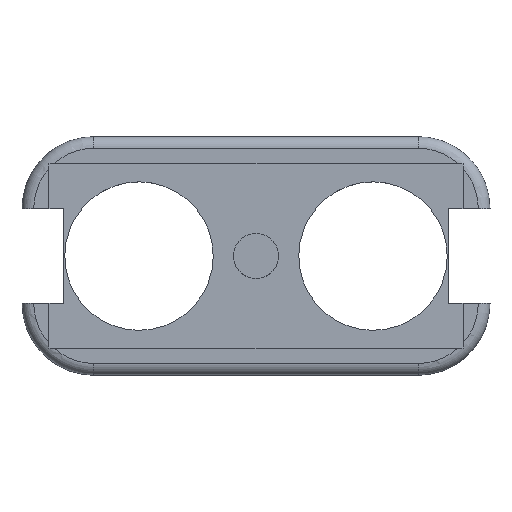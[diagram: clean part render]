
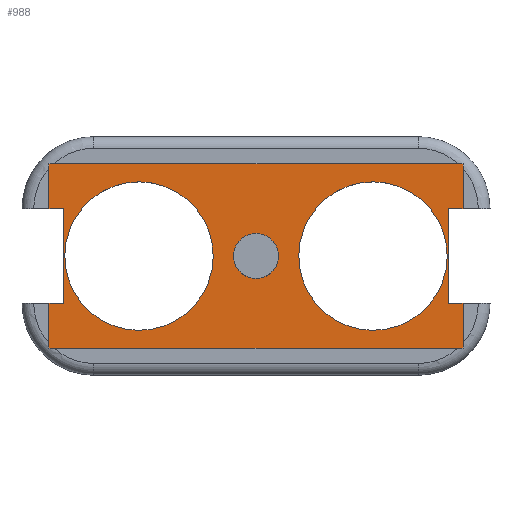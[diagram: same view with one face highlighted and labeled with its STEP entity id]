
A CAD part, top view. The second image highlights one B-rep face of the part: STEP entity #988.
In plain terms, the highlighted planar face has unit normal (0, 0, 1).
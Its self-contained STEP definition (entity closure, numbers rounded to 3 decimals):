
#81=CIRCLE('',#1087,2.5);
#82=CIRCLE('',#1091,8.25);
#83=CIRCLE('',#1092,8.25);
#109=PLANE('',#1090);
#153=VERTEX_POINT('',#1444);
#154=VERTEX_POINT('',#1446);
#157=VERTEX_POINT('',#1453);
#158=VERTEX_POINT('',#1455);
#171=VERTEX_POINT('',#1638);
#172=VERTEX_POINT('',#1640);
#174=VERTEX_POINT('',#1646);
#190=VERTEX_POINT('',#1835);
#191=VERTEX_POINT('',#1837);
#199=VERTEX_POINT('',#1867);
#207=VERTEX_POINT('',#1893);
#213=VERTEX_POINT('',#1918);
#214=VERTEX_POINT('',#1923);
#215=VERTEX_POINT('',#1929);
#216=VERTEX_POINT('',#1931);
#247=VECTOR('',#1179,1.);
#251=VECTOR('',#1184,1.);
#256=VECTOR('',#1214,1.);
#260=VECTOR('',#1219,1.);
#266=VECTOR('',#1251,1.);
#268=VECTOR('',#1254,1.);
#280=VECTOR('',#1280,1.);
#286=VECTOR('',#1307,1.);
#293=VECTOR('',#1343,1.);
#294=VECTOR('',#1345,1.);
#325=LINE('',#1445,#247);
#329=LINE('',#1454,#251);
#334=LINE('',#1639,#256);
#338=LINE('',#1647,#260);
#344=LINE('',#1836,#266);
#346=LINE('',#1840,#268);
#358=LINE('',#1868,#280);
#364=LINE('',#1894,#286);
#371=LINE('',#1925,#293);
#372=LINE('',#1927,#294);
#415=EDGE_CURVE('',#153,#154,#325,.T.);
#419=EDGE_CURVE('',#158,#157,#329,.T.);
#438=EDGE_CURVE('',#172,#171,#334,.T.);
#442=EDGE_CURVE('',#171,#174,#338,.T.);
#462=EDGE_CURVE('',#191,#190,#344,.T.);
#464=EDGE_CURVE('',#158,#190,#346,.T.);
#480=EDGE_CURVE('',#199,#153,#358,.T.);
#494=EDGE_CURVE('',#207,#157,#364,.T.);
#505=EDGE_CURVE('',#213,#213,#81,.T.);
#509=EDGE_CURVE('',#199,#214,#338,.T.);
#510=EDGE_CURVE('',#207,#172,#344,.T.);
#511=EDGE_CURVE('',#214,#191,#371,.T.);
#512=EDGE_CURVE('',#154,#174,#372,.T.);
#513=EDGE_CURVE('',#215,#215,#82,.T.);
#514=EDGE_CURVE('',#216,#216,#83,.T.);
#772=ORIENTED_EDGE('',*,*,#415,.F.);
#773=ORIENTED_EDGE('',*,*,#480,.F.);
#774=ORIENTED_EDGE('',*,*,#509,.T.);
#775=ORIENTED_EDGE('',*,*,#511,.T.);
#776=ORIENTED_EDGE('',*,*,#462,.T.);
#777=ORIENTED_EDGE('',*,*,#464,.F.);
#778=ORIENTED_EDGE('',*,*,#419,.T.);
#779=ORIENTED_EDGE('',*,*,#494,.F.);
#780=ORIENTED_EDGE('',*,*,#510,.T.);
#781=ORIENTED_EDGE('',*,*,#438,.T.);
#782=ORIENTED_EDGE('',*,*,#442,.T.);
#783=ORIENTED_EDGE('',*,*,#512,.F.);
#784=ORIENTED_EDGE('',*,*,#513,.F.);
#785=ORIENTED_EDGE('',*,*,#505,.T.);
#786=ORIENTED_EDGE('',*,*,#514,.F.);
#858=EDGE_LOOP('',(#772,#773,#774,#775,#776,#777,#778,#779,#780,#781,#782,
#783));
#859=EDGE_LOOP('',(#784));
#860=EDGE_LOOP('',(#785));
#861=EDGE_LOOP('',(#786));
#926=FACE_BOUND('',#858,.T.);
#927=FACE_BOUND('',#859,.T.);
#928=FACE_BOUND('',#860,.T.);
#929=FACE_BOUND('',#861,.T.);
#988=ADVANCED_FACE('',(#926,#927,#928,#929),#109,.T.);
#1087=AXIS2_PLACEMENT_3D('',#1917,#1336,#1337);
#1090=AXIS2_PLACEMENT_3D('',#1926,#1344,$);
#1091=AXIS2_PLACEMENT_3D('',#1928,#1346,#1347);
#1092=AXIS2_PLACEMENT_3D('',#1930,#1348,#1349);
#1179=DIRECTION('',(0.,-1.,0.));
#1184=DIRECTION('',(0.,-1.,0.));
#1214=DIRECTION('',(1.,0.,0.));
#1219=DIRECTION('',(0.,1.,0.));
#1251=DIRECTION('',(0.,-1.,0.));
#1254=DIRECTION('',(-1.,0.,0.));
#1280=DIRECTION('',(-1.,0.,0.));
#1307=DIRECTION('',(1.,0.,0.));
#1336=DIRECTION('',(0.,0.,-1.));
#1337=DIRECTION('',(2.5,0.,0.));
#1343=DIRECTION('',(-1.,0.,0.));
#1344=DIRECTION('',(0.,0.,1.));
#1345=DIRECTION('',(1.,0.,0.));
#1346=DIRECTION('',(0.,0.,1.));
#1347=DIRECTION('',(8.25,0.,0.));
#1348=DIRECTION('',(0.,0.,1.));
#1349=DIRECTION('',(8.25,0.,0.));
#1444=CARTESIAN_POINT('',(21.364,5.25,4.1));
#1445=CARTESIAN_POINT('',(21.364,5.25,4.1));
#1446=CARTESIAN_POINT('',(21.364,-5.25,4.1));
#1453=CARTESIAN_POINT('',(-21.364,-5.25,4.1));
#1454=CARTESIAN_POINT('',(-21.364,5.25,4.1));
#1455=CARTESIAN_POINT('',(-21.364,5.25,4.1));
#1638=CARTESIAN_POINT('',(23.,-10.25,4.1));
#1639=CARTESIAN_POINT('',(-23.,-10.25,4.1));
#1640=CARTESIAN_POINT('',(-23.,-10.25,4.1));
#1646=CARTESIAN_POINT('',(23.,-5.25,4.1));
#1647=CARTESIAN_POINT('',(23.,-10.25,4.1));
#1835=CARTESIAN_POINT('',(-23.,5.25,4.1));
#1836=CARTESIAN_POINT('',(-23.,10.25,4.1));
#1837=CARTESIAN_POINT('',(-23.,10.25,4.1));
#1840=CARTESIAN_POINT('',(-11.341,5.25,4.1));
#1867=CARTESIAN_POINT('',(23.,5.25,4.1));
#1868=CARTESIAN_POINT('',(11.341,5.25,4.1));
#1893=CARTESIAN_POINT('',(-23.,-5.25,4.1));
#1894=CARTESIAN_POINT('',(-11.341,-5.25,4.1));
#1917=CARTESIAN_POINT('',(0.,0.,4.1));
#1918=CARTESIAN_POINT('',(2.5,0.,4.1));
#1923=CARTESIAN_POINT('',(23.,10.25,4.1));
#1925=CARTESIAN_POINT('',(23.,10.25,4.1));
#1926=CARTESIAN_POINT('',(0.,0.,4.1));
#1927=CARTESIAN_POINT('',(11.341,-5.25,4.1));
#1928=CARTESIAN_POINT('',(13.,0.,4.1));
#1929=CARTESIAN_POINT('',(19.364,5.25,4.1));
#1930=CARTESIAN_POINT('',(-13.,0.,4.1));
#1931=CARTESIAN_POINT('',(-19.364,-5.25,4.1));
